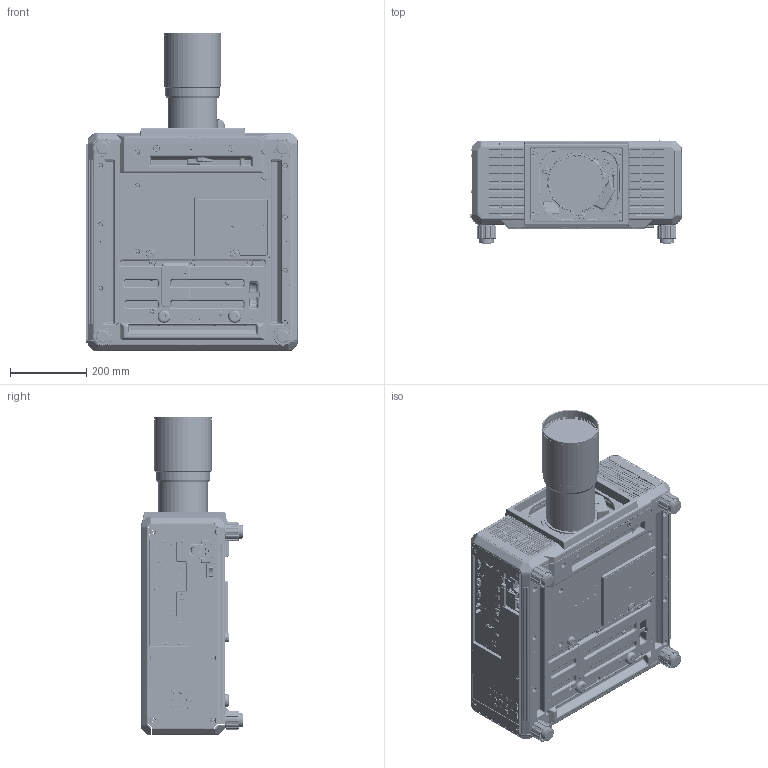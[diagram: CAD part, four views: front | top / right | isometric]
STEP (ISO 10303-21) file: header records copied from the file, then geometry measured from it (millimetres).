
FILE_DESCRIPTION(/* description */ (''),/* implementation_level */ '2;1');
FILE_NAME(/* name */ '01103068_ZA00_RQ25K_D75LE8_FACE.stp',/* time_stamp */ '2022-12-02T15:58:22+09:00',/* author */ (''),/* organization */ (''),/* preprocessor_version */ 'ST-DEVELOPER v16',/* originating_system */ 'SIEMENS PLM Software NX 10.0',/* authorisation */ '');
FILE_SCHEMA (('AUTOMOTIVE_DESIGN { 1 0 10303 214 3 1 1 1 }'));
Products named in the file (1): 01103068_ZA00
Bounding box: 556.3 x 269 x 832.65 mm (x, y, z)
Surface area: 1987679.3 mm2 (no closed solid volume)
Topology: 0 solids, 2164 shells, 10379 faces, 46395 edges, 37567 vertices
Faces by surface type: plane 5159, cylinder 4105, torus 442, bspline 391, cone 167, sphere 114, extrusion 1
Full cylindrical faces by diameter (mm): 1.02 x2, 3 x1, 3.6 x2, 5 x2, 5.5 x2, 6 x2, 7 x2, 8 x2, 9.5 x2, 14.9 x1, 16 x1, 23.647 x1, 37.2 x4, 40 x4, 126.6 x1, 130 x1, 137.6 x1, 138 x1, 140.4 x1, 142 x1, 143.2 x1, 146 x1, 149 x1, 150 x2, 154 x1
Entity records: 564992 total; most frequent: CARTESIAN_POINT 129441, DIRECTION 76641, ORIENTED_EDGE 56422, EDGE_CURVE 45907, VERTEX_POINT 37413, VECTOR 25983, LINE 25982, AXIS2_PLACEMENT_3D 25329
